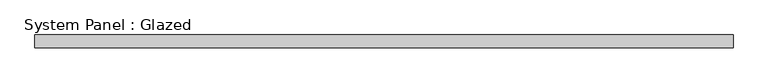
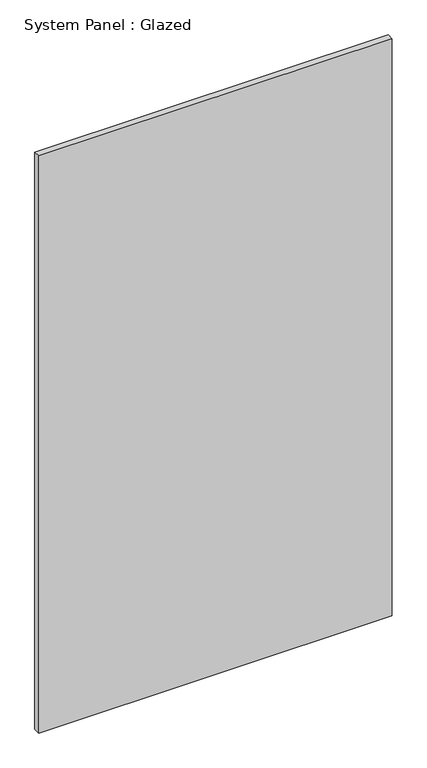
"""IFC4 building model written with IfcOpenShell, lengths in millimetres: plate geometry, System Panel : Glazed."""

from ifc_helpers import new_model, si_unit, origin, origin_with_axes, place, context, project, spatial, polyline, outline, extrude, source, transform, mapped, element, save


def system_panel_glazed_17027882(model_context):
    return source(origin(), model_context, "Body", "SweptSolid", [
        extrude(outline(polyline([(673.7000001, 24.5), (-673.7000001, 24.5), (-673.7000001, 49.5), (673.7000001, 49.5), (673.7000001, 24.5)])), origin_with_axes(), (0.0, 0.0, 1.0), 2325.0),
    ])


if __name__ == "__main__":
    model = new_model("IFC4")
    model_context = context("Model", 3, world=origin())
    ifc_project = project(units=[si_unit("LENGTHUNIT", "METRE", prefix="MILLI")], contexts=[model_context])
    site = spatial("IfcSite", under=ifc_project)
    building = spatial("IfcBuilding", under=site)
    placement = place(None, origin())
    system_panel_glazed_shape = system_panel_glazed_17027882(model_context)
    element("IfcPlate", 1, ObjectType="System Panel : Glazed", at=placement, inside=building, context=model_context, shape_type="MappedRepresentation", body=[
        mapped(system_panel_glazed_shape, transform((0.0, 0.0, 0.0), x_axis=(1.0, 0.0, 0.0), y_axis=(0.0, 1.0, 0.0), z_axis=(0.0, 0.0, 1.0))),
    ])
    save(model, "model.ifc")
